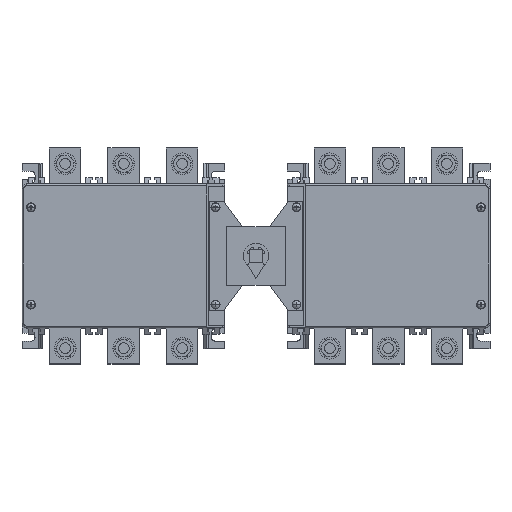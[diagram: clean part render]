
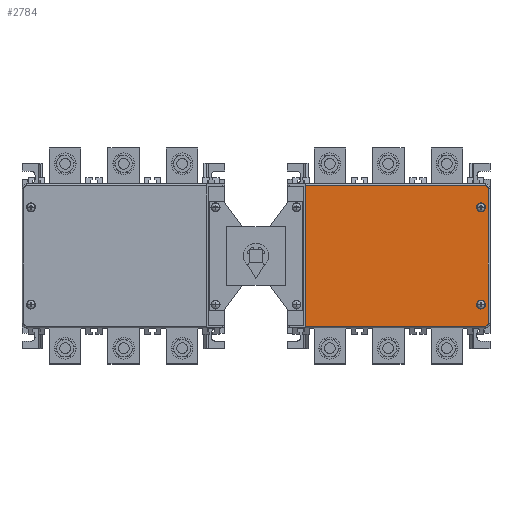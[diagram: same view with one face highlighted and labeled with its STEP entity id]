
A CAD part, top view. The second image highlights one B-rep face of the part: STEP entity #2784.
In plain terms, the highlighted planar face has unit normal (0, 0, 1).
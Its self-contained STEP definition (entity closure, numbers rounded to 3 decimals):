
#601=CARTESIAN_POINT('',(232.5,149.,38.));
#602=DIRECTION('',(0.,0.,-1.));
#603=DIRECTION('',(1.,0.,0.));
#604=AXIS2_PLACEMENT_3D('',#601,#602,#603);
#606=CARTESIAN_POINT('',(232.5,149.,38.));
#607=DIRECTION('',(0.,0.,-1.));
#608=DIRECTION('',(-1.,0.,0.));
#609=AXIS2_PLACEMENT_3D('',#606,#607,#608);
#611=CARTESIAN_POINT('',(27.5,149.,38.));
#612=DIRECTION('',(0.,0.,-1.));
#613=DIRECTION('',(1.,0.,0.));
#614=AXIS2_PLACEMENT_3D('',#611,#612,#613);
#616=CARTESIAN_POINT('',(27.5,149.,38.));
#617=DIRECTION('',(0.,0.,-1.));
#618=DIRECTION('',(-1.,0.,0.));
#619=AXIS2_PLACEMENT_3D('',#616,#617,#618);
#621=CARTESIAN_POINT('',(27.5,41.,38.));
#622=DIRECTION('',(0.,0.,-1.));
#623=DIRECTION('',(1.,0.,0.));
#624=AXIS2_PLACEMENT_3D('',#621,#622,#623);
#626=CARTESIAN_POINT('',(27.5,41.,38.));
#627=DIRECTION('',(0.,0.,-1.));
#628=DIRECTION('',(-1.,0.,0.));
#629=AXIS2_PLACEMENT_3D('',#626,#627,#628);
#631=CARTESIAN_POINT('',(232.5,41.,38.));
#632=DIRECTION('',(0.,0.,-1.));
#633=DIRECTION('',(1.,0.,0.));
#634=AXIS2_PLACEMENT_3D('',#631,#632,#633);
#636=CARTESIAN_POINT('',(232.5,41.,38.));
#637=DIRECTION('',(0.,0.,-1.));
#638=DIRECTION('',(-1.,0.,0.));
#639=AXIS2_PLACEMENT_3D('',#636,#637,#638);
#641=DIRECTION('',(1.,0.,0.));
#642=VECTOR('',#641,215.);
#643=CARTESIAN_POINT('',(22.5,173.,38.));
#644=LINE('',#643,#642);
#645=CARTESIAN_POINT('',(237.5,170.,38.));
#646=DIRECTION('',(0.,0.,-1.));
#647=DIRECTION('',(0.,1.,0.));
#648=AXIS2_PLACEMENT_3D('',#645,#646,#647);
#650=DIRECTION('',(0.,1.,0.));
#651=VECTOR('',#650,150.);
#652=CARTESIAN_POINT('',(240.5,20.,38.));
#653=LINE('',#652,#651);
#654=CARTESIAN_POINT('',(237.5,20.,38.));
#655=DIRECTION('',(0.,0.,-1.));
#656=DIRECTION('',(1.,0.,0.));
#657=AXIS2_PLACEMENT_3D('',#654,#655,#656);
#659=DIRECTION('',(-1.,0.,0.));
#660=VECTOR('',#659,215.);
#661=CARTESIAN_POINT('',(237.5,17.,38.));
#662=LINE('',#661,#660);
#663=CARTESIAN_POINT('',(22.5,20.,38.));
#664=DIRECTION('',(0.,0.,-1.));
#665=DIRECTION('',(0.,-1.,0.));
#666=AXIS2_PLACEMENT_3D('',#663,#664,#665);
#668=DIRECTION('',(0.,-1.,0.));
#669=VECTOR('',#668,150.);
#670=CARTESIAN_POINT('',(19.5,170.,38.));
#671=LINE('',#670,#669);
#672=CARTESIAN_POINT('',(22.5,170.,38.));
#673=DIRECTION('',(0.,0.,-1.));
#674=DIRECTION('',(-1.,0.,0.));
#675=AXIS2_PLACEMENT_3D('',#672,#673,#674);
#1703=CARTESIAN_POINT('',(237.5,149.,38.));
#1704=CARTESIAN_POINT('',(227.5,149.,38.));
#1705=VERTEX_POINT('',#1703);
#1706=VERTEX_POINT('',#1704);
#1707=CARTESIAN_POINT('',(32.5,149.,38.));
#1708=CARTESIAN_POINT('',(22.5,149.,38.));
#1709=VERTEX_POINT('',#1707);
#1710=VERTEX_POINT('',#1708);
#1711=CARTESIAN_POINT('',(32.5,41.,38.));
#1712=CARTESIAN_POINT('',(22.5,41.,38.));
#1713=VERTEX_POINT('',#1711);
#1714=VERTEX_POINT('',#1712);
#1715=CARTESIAN_POINT('',(237.5,41.,38.));
#1716=CARTESIAN_POINT('',(227.5,41.,38.));
#1717=VERTEX_POINT('',#1715);
#1718=VERTEX_POINT('',#1716);
#1979=CARTESIAN_POINT('',(22.5,173.,38.));
#1980=CARTESIAN_POINT('',(237.5,173.,38.));
#1981=VERTEX_POINT('',#1979);
#1982=VERTEX_POINT('',#1980);
#1983=CARTESIAN_POINT('',(237.5,17.,38.));
#1984=CARTESIAN_POINT('',(22.5,17.,38.));
#1985=VERTEX_POINT('',#1983);
#1986=VERTEX_POINT('',#1984);
#1987=CARTESIAN_POINT('',(240.5,20.,38.));
#1988=VERTEX_POINT('',#1987);
#1989=CARTESIAN_POINT('',(19.5,20.,38.));
#1990=VERTEX_POINT('',#1989);
#1991=CARTESIAN_POINT('',(19.5,170.,38.));
#1992=VERTEX_POINT('',#1991);
#1993=CARTESIAN_POINT('',(240.5,170.,38.));
#1994=VERTEX_POINT('',#1993);
#2739=CARTESIAN_POINT('',(0.,0.,38.));
#2740=DIRECTION('',(0.,0.,1.));
#2741=DIRECTION('',(1.,0.,0.));
#2742=AXIS2_PLACEMENT_3D('',#2739,#2740,#2741);
#2743=PLANE('',#2742);
#2745=ORIENTED_EDGE('',*,*,#2744,.T.);
#2747=ORIENTED_EDGE('',*,*,#2746,.T.);
#2749=ORIENTED_EDGE('',*,*,#2748,.F.);
#2751=ORIENTED_EDGE('',*,*,#2750,.T.);
#2753=ORIENTED_EDGE('',*,*,#2752,.T.);
#2755=ORIENTED_EDGE('',*,*,#2754,.T.);
#2757=ORIENTED_EDGE('',*,*,#2756,.F.);
#2759=ORIENTED_EDGE('',*,*,#2758,.T.);
#2760=EDGE_LOOP('',(#2745,#2747,#2749,#2751,#2753,#2755,#2757,#2759));
#2761=FACE_OUTER_BOUND('',#2760,.F.);
#2762=ORIENTED_EDGE('',*,*,#2719,.F.);
#2763=ORIENTED_EDGE('',*,*,#2733,.F.);
#2764=EDGE_LOOP('',(#2762,#2763));
#2765=FACE_BOUND('',#2764,.F.);
#2767=ORIENTED_EDGE('',*,*,#2766,.F.);
#2769=ORIENTED_EDGE('',*,*,#2768,.F.);
#2770=EDGE_LOOP('',(#2767,#2769));
#2771=FACE_BOUND('',#2770,.F.);
#2773=ORIENTED_EDGE('',*,*,#2772,.F.);
#2775=ORIENTED_EDGE('',*,*,#2774,.F.);
#2776=EDGE_LOOP('',(#2773,#2775));
#2777=FACE_BOUND('',#2776,.F.);
#2779=ORIENTED_EDGE('',*,*,#2778,.F.);
#2781=ORIENTED_EDGE('',*,*,#2780,.F.);
#2782=EDGE_LOOP('',(#2779,#2781));
#2783=FACE_BOUND('',#2782,.F.);
#2784=ADVANCED_FACE('',(#2761,#2765,#2771,#2777,#2783),#2743,.T.);
#605=CIRCLE('',#604,5.);
#610=CIRCLE('',#609,5.);
#615=CIRCLE('',#614,5.);
#620=CIRCLE('',#619,5.);
#625=CIRCLE('',#624,5.);
#630=CIRCLE('',#629,5.);
#635=CIRCLE('',#634,5.);
#640=CIRCLE('',#639,5.);
#649=CIRCLE('',#648,3.);
#658=CIRCLE('',#657,3.);
#667=CIRCLE('',#666,3.);
#676=CIRCLE('',#675,3.);
#2719=EDGE_CURVE('',#1705,#1706,#605,.T.);
#2733=EDGE_CURVE('',#1706,#1705,#610,.T.);
#2744=EDGE_CURVE('',#1981,#1982,#644,.T.);
#2746=EDGE_CURVE('',#1982,#1994,#649,.T.);
#2748=EDGE_CURVE('',#1988,#1994,#653,.T.);
#2750=EDGE_CURVE('',#1988,#1985,#658,.T.);
#2752=EDGE_CURVE('',#1985,#1986,#662,.T.);
#2754=EDGE_CURVE('',#1986,#1990,#667,.T.);
#2756=EDGE_CURVE('',#1992,#1990,#671,.T.);
#2758=EDGE_CURVE('',#1992,#1981,#676,.T.);
#2766=EDGE_CURVE('',#1709,#1710,#615,.T.);
#2768=EDGE_CURVE('',#1710,#1709,#620,.T.);
#2772=EDGE_CURVE('',#1713,#1714,#625,.T.);
#2774=EDGE_CURVE('',#1714,#1713,#630,.T.);
#2778=EDGE_CURVE('',#1717,#1718,#635,.T.);
#2780=EDGE_CURVE('',#1718,#1717,#640,.T.);
